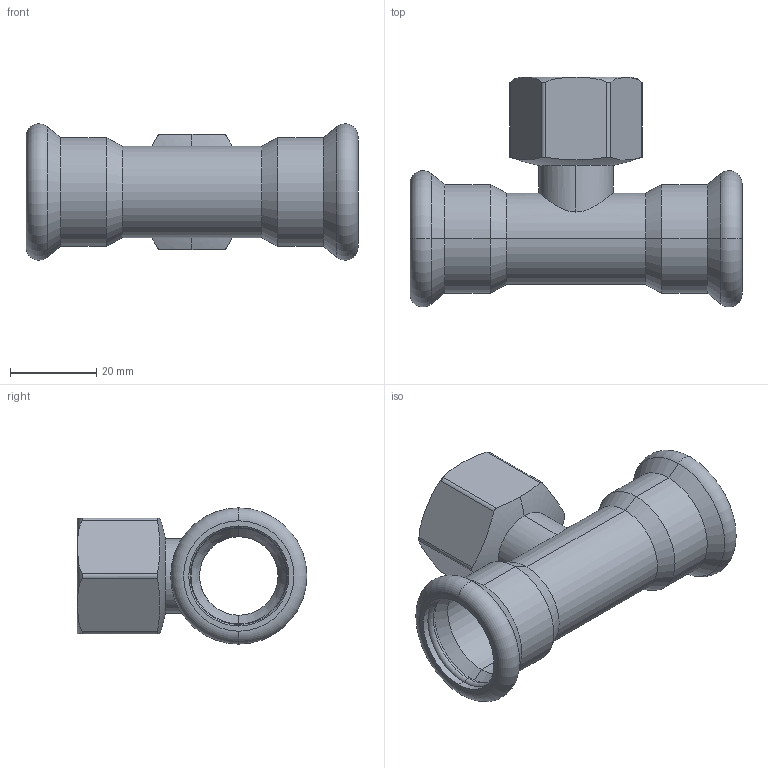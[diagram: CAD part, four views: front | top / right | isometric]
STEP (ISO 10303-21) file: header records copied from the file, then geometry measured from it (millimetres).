
FILE_DESCRIPTION (( 'STEP AP214' ), '1' );
FILE_NAME ('T22200F.STEP', '2025-08-17T14:09:46', ( '' ), ( '' ), 'SwSTEP 2.0', 'SolidWorks 2020', '' );
FILE_SCHEMA (( 'AUTOMOTIVE_DESIGN' ));
Length unit declared in the file: millimetre
Products named in the file (1): T22200F
Bounding box: 77 x 53.3 x 31.6 mm (x, y, z)
Volume: 15136.4 mm3; surface area: 18261.1 mm2
Topology: 3 solids, 3 shells, 104 faces, 249 edges, 150 vertices
Faces by surface type: cylinder 51, torus 20, cone 18, plane 12, bspline 3
Entity records: 6350 total; most frequent: CARTESIAN_POINT 2899, ORIENTED_EDGE 498, DIRECTION 454, EDGE_CURVE 249, AXIS2_PLACEMENT_3D 188, VERTEX_POINT 150, EDGE_LOOP 111, UNCERTAINTY_MEASURE_WITH_UNIT 109
